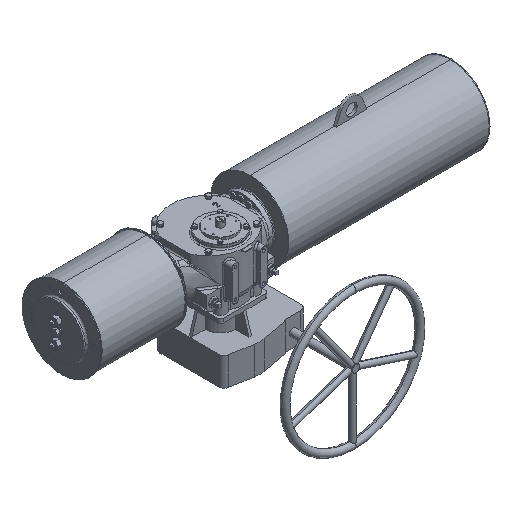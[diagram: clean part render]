
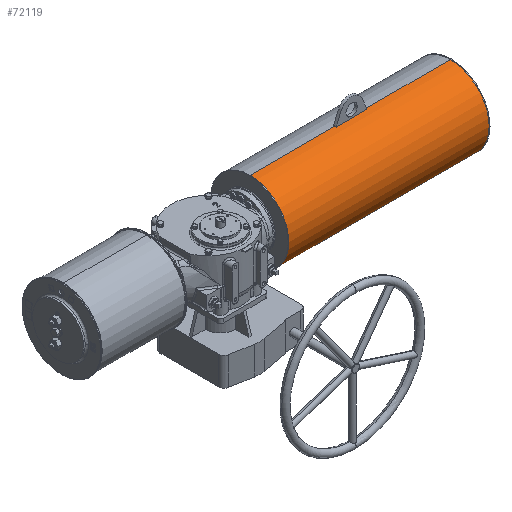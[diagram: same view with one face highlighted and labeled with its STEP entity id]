
A CAD part, isometric view. The second image highlights one B-rep face of the part: STEP entity #72119.
In plain terms, the highlighted cylindrical face has radius 136.5 mm (diameter 273 mm), a partial arc.
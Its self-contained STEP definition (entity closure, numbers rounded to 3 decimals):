
#1054 = LINE ( 'NONE', #18640, #48600 ) ;
#1331 = FACE_OUTER_BOUND ( 'NONE', #54594, .T. ) ;
#2008 = ORIENTED_EDGE ( 'NONE', *, *, #50357, .T. ) ;
#3097 = ORIENTED_EDGE ( 'NONE', *, *, #74210, .T. ) ;
#4332 = LINE ( 'NONE', #73870, #59965 ) ;
#4690 = DIRECTION ( 'NONE',  ( 1., 0., 0. ) ) ;
#5989 = ORIENTED_EDGE ( 'NONE', *, *, #25333, .T. ) ;
#8268 = EDGE_CURVE ( 'NONE', #49051, #24126, #53374, .T. ) ;
#8930 = AXIS2_PLACEMENT_3D ( 'NONE', #36899, #31389, #24785 ) ;
#9585 = EDGE_CURVE ( 'NONE', #43298, #66476, #27378, .T. ) ;
#9853 = CARTESIAN_POINT ( 'NONE',  ( 179.977, -101.204, 2. ) ) ;
#10215 = DIRECTION ( 'NONE',  ( 1., 0., 0. ) ) ;
#12102 = EDGE_CURVE ( 'NONE', #46931, #43298, #72861, .T. ) ;
#12384 = DIRECTION ( 'NONE',  ( 1., 0., 0. ) ) ;
#13115 = VERTEX_POINT ( 'NONE', #35912 ) ;
#14692 = DIRECTION ( 'NONE',  ( 1., 0., 0. ) ) ;
#18640 = CARTESIAN_POINT ( 'NONE',  ( 183.477, 35.296, 138.5 ) ) ;
#19627 = DIRECTION ( 'NONE',  ( -1., 0., 0. ) ) ;
#20713 = CARTESIAN_POINT ( 'NONE',  ( 886.977, 35.296, -134.5 ) ) ;
#23692 = DIRECTION ( 'NONE',  ( -1., 0., 0. ) ) ;
#24126 = VERTEX_POINT ( 'NONE', #66194 ) ;
#24785 = DIRECTION ( 'NONE',  ( 0., 0., 1. ) ) ;
#24994 = DIRECTION ( 'NONE',  ( 1., 0., 0. ) ) ;
#25333 = EDGE_CURVE ( 'NONE', #66476, #48187, #31559, .T. ) ;
#27194 = AXIS2_PLACEMENT_3D ( 'NONE', #29682, #24994, #42956 ) ;
#27378 = LINE ( 'NONE', #58883, #60626 ) ;
#27409 = AXIS2_PLACEMENT_3D ( 'NONE', #59649, #23692, #53758 ) ;
#29223 = DIRECTION ( 'NONE',  ( 0., 0., 1. ) ) ;
#29682 = CARTESIAN_POINT ( 'NONE',  ( 587.477, 35.296, 2. ) ) ;
#30138 = ORIENTED_EDGE ( 'NONE', *, *, #70519, .T. ) ;
#30647 = CYLINDRICAL_SURFACE ( 'NONE', #8930, 136.5 ) ;
#31389 = DIRECTION ( 'NONE',  ( 1., 0., 0. ) ) ;
#31559 = CIRCLE ( 'NONE', #71344, 136.5 ) ;
#32266 = CARTESIAN_POINT ( 'NONE',  ( 179.977, 35.296, 138.5 ) ) ;
#33110 = CARTESIAN_POINT ( 'NONE',  ( 587.477, 35.296, 138.5 ) ) ;
#34312 = VECTOR ( 'NONE', #14692, 1000. ) ;
#35912 = CARTESIAN_POINT ( 'NONE',  ( 479.477, 30.296, 138.408 ) ) ;
#36685 = AXIS2_PLACEMENT_3D ( 'NONE', #75080, #10215, #29223 ) ;
#36899 = CARTESIAN_POINT ( 'NONE',  ( 183.477, 35.296, 2. ) ) ;
#37323 = VERTEX_POINT ( 'NONE', #69937 ) ;
#38832 = EDGE_CURVE ( 'NONE', #71799, #37323, #49827, .T. ) ;
#39167 = CARTESIAN_POINT ( 'NONE',  ( 886.977, 35.296, 138.5 ) ) ;
#41708 = CARTESIAN_POINT ( 'NONE',  ( 179.977, 35.296, -134.5 ) ) ;
#42956 = DIRECTION ( 'NONE',  ( 0., -1., 0. ) ) ;
#43298 = VERTEX_POINT ( 'NONE', #41708 ) ;
#44592 = DIRECTION ( 'NONE',  ( 0., 0., 1. ) ) ;
#46931 = VERTEX_POINT ( 'NONE', #9853 ) ;
#47516 = DIRECTION ( 'NONE',  ( 1., 0., 0. ) ) ;
#48187 = VERTEX_POINT ( 'NONE', #39167 ) ;
#48600 = VECTOR ( 'NONE', #12384, 1000. ) ;
#49051 = VERTEX_POINT ( 'NONE', #33110 ) ;
#49827 = LINE ( 'NONE', #73293, #34312 ) ;
#50357 = EDGE_CURVE ( 'NONE', #71799, #46931, #57888, .T. ) ;
#50809 = DIRECTION ( 'NONE',  ( -1., 0., 0. ) ) ;
#51989 = ORIENTED_EDGE ( 'NONE', *, *, #8268, .T. ) ;
#52692 = CARTESIAN_POINT ( 'NONE',  ( 179.977, 35.296, 2. ) ) ;
#53374 = CIRCLE ( 'NONE', #27194, 136.5 ) ;
#53758 = DIRECTION ( 'NONE',  ( 0., 1., 0. ) ) ;
#54594 = EDGE_LOOP ( 'NONE', ( #2008, #63676, #60057, #5989, #69728, #51989, #30138, #3097, #75711 ) ) ;
#57827 = DIRECTION ( 'NONE',  ( 0., 0., 1. ) ) ;
#57888 = CIRCLE ( 'NONE', #36685, 136.5 ) ;
#58883 = CARTESIAN_POINT ( 'NONE',  ( 183.477, 35.296, -134.5 ) ) ;
#59439 = EDGE_CURVE ( 'NONE', #49051, #48187, #1054, .T. ) ;
#59649 = CARTESIAN_POINT ( 'NONE',  ( 479.477, 35.296, 2. ) ) ;
#59965 = VECTOR ( 'NONE', #50809, 1000. ) ;
#60057 = ORIENTED_EDGE ( 'NONE', *, *, #9585, .T. ) ;
#60626 = VECTOR ( 'NONE', #47516, 1000. ) ;
#61106 = CIRCLE ( 'NONE', #27409, 136.5 ) ;
#61814 = CARTESIAN_POINT ( 'NONE',  ( 886.977, 35.296, 2. ) ) ;
#63676 = ORIENTED_EDGE ( 'NONE', *, *, #12102, .T. ) ;
#66194 = CARTESIAN_POINT ( 'NONE',  ( 587.477, 30.296, 138.408 ) ) ;
#66476 = VERTEX_POINT ( 'NONE', #20713 ) ;
#69728 = ORIENTED_EDGE ( 'NONE', *, *, #59439, .F. ) ;
#69937 = CARTESIAN_POINT ( 'NONE',  ( 479.477, 35.296, 138.5 ) ) ;
#70519 = EDGE_CURVE ( 'NONE', #24126, #13115, #4332, .T. ) ;
#71344 = AXIS2_PLACEMENT_3D ( 'NONE', #61814, #19627, #44592 ) ;
#71799 = VERTEX_POINT ( 'NONE', #32266 ) ;
#72119 = ADVANCED_FACE ( 'NONE', ( #1331 ), #30647, .T. ) ;
#72861 = CIRCLE ( 'NONE', #75387, 136.5 ) ;
#73293 = CARTESIAN_POINT ( 'NONE',  ( 183.477, 35.296, 138.5 ) ) ;
#73870 = CARTESIAN_POINT ( 'NONE',  ( 183.477, 30.296, 138.408 ) ) ;
#74210 = EDGE_CURVE ( 'NONE', #13115, #37323, #61106, .T. ) ;
#75080 = CARTESIAN_POINT ( 'NONE',  ( 179.977, 35.296, 2. ) ) ;
#75387 = AXIS2_PLACEMENT_3D ( 'NONE', #52692, #4690, #57827 ) ;
#75711 = ORIENTED_EDGE ( 'NONE', *, *, #38832, .F. ) ;
